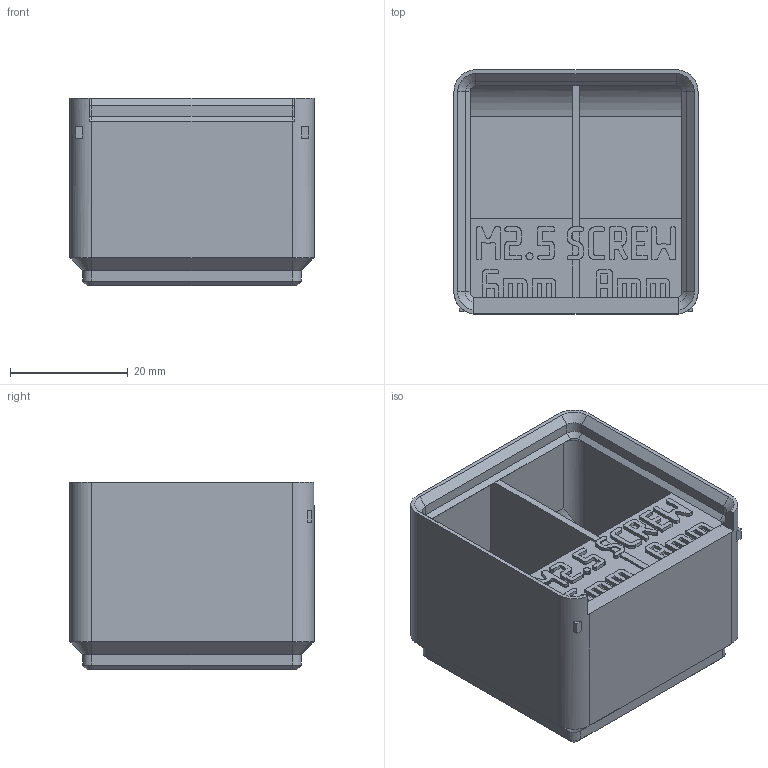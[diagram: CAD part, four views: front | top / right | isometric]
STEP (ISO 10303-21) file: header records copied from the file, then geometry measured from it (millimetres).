
FILE_DESCRIPTION(('Open CASCADE Model'),'2;1');
FILE_NAME('Open CASCADE Shape Model','2026-11-03T10:34:46',('Author'),( 'Open CASCADE'),'Open CASCADE STEP processor 8.0','build123d', 'Unknown');
FILE_SCHEMA(('AUTOMOTIVE_DESIGN { 1 0 10303 214 1 1 1 1 }'));
Products named in the file (1): COMPOUND
Bounding box: 41.5 x 41.5 x 31.9 mm (x, y, z)
Volume: 15344.7 mm3; surface area: 14867.7 mm2
Topology: 1 solids, 1 shells, 1592 faces, 4704 edges, 3120 vertices
Faces by surface type: plane 1554, cone 20, cylinder 18
Entity records: 109740 total; most frequent: CARTESIAN_POINT 23033, DIRECTION 13534, LINE 10216, VECTOR 10216, ORIENTED_EDGE 9408, PCURVE 9408, DEFINITIONAL_REPRESENTATION 9408, EDGE_CURVE 4704
